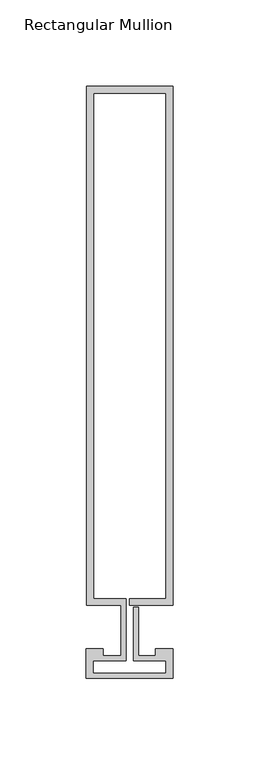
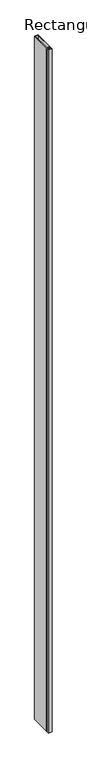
"""IFC4 building model written with IfcOpenShell, lengths in millimetres: member geometry, Rectangular Mullion : Reynaers_CW-50_Mullion-Transom_Vertical_300.5mm_Facecap-02B."""

from ifc_helpers import new_model, si_unit, frame, origin, place, context, project, spatial, polyline, outline, extrude, source, transform, mapped, element, save


def rectangular_mullion_dca4aa0a(model_context):
    return source(origin(), model_context, "Body", "SweptSolid", [
        extrude(outline(polyline([(-24.8004059, 313.0), (25.1995941, 313.0), (25.1995941, 12.5), (0.0, 12.5), (0.0, 16.5), (21.1995941, 16.5), (21.1995941, 309.0), (-20.8004059, 309.0), (-20.8004059, 16.5), (-1.9004059, 16.5), (-1.9004059, -19.5), (-20.994845, -19.5), (-20.994845, -26.7191338), (21.1995941, -26.7191338), (21.1995941, -19.5), (2.2995941, -19.5), (2.2995941, 11.5), (5.2995941, 11.5), (5.2995941, -16.5), (15.2996495, -16.5), (15.2996495, -12.5), (25.1995941, -12.5), (25.1995941, -29.8), (-24.994845, -29.8), (-24.994845, -12.5), (-15.2996495, -12.5), (-15.2996495, -16.5), (-4.9004059, -16.5), (-4.9004059, 12.5), (-24.8004059, 12.5), (-24.8004059, 313.0)])), frame((0.0, 0.0, -10400.0), z_axis=(0.0, 0.0, 1.0), x_axis=(1.0, 0.0, 0.0)), (0.0, 0.0, 1.0), 10400.0),
    ])


if __name__ == "__main__":
    model = new_model("IFC4")
    model_context = context("Model", 3, world=origin())
    ifc_project = project(units=[si_unit("LENGTHUNIT", "METRE", prefix="MILLI")], contexts=[model_context])
    site = spatial("IfcSite", under=ifc_project)
    building = spatial("IfcBuilding", under=site)
    placement = place(None, origin())
    rectangular_mullion_shape = rectangular_mullion_dca4aa0a(model_context)
    element("IfcMember", 1, ObjectType="Rectangular Mullion : Reynaers_CW-50_Mullion-Transom_Vertical_300.5mm_Facecap-02B", at=placement, inside=building, context=model_context, shape_type="MappedRepresentation", body=[
        mapped(rectangular_mullion_shape, transform((0.0, 0.0, 0.0), x_axis=(1.0, 0.0, 0.0), y_axis=(0.0, 1.0, 0.0), z_axis=(0.0, 0.0, 1.0))),
    ])
    save(model, "model.ifc")
